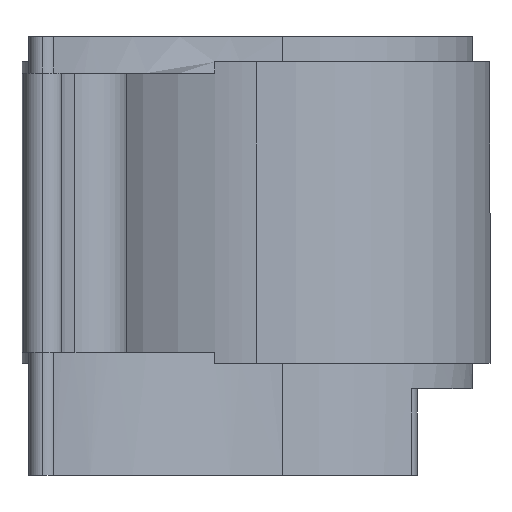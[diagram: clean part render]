
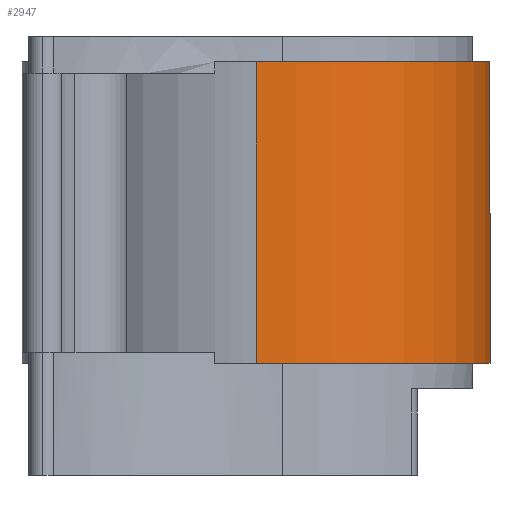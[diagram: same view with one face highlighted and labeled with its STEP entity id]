
A CAD part, left-side view. The second image highlights one B-rep face of the part: STEP entity #2947.
In plain terms, the highlighted cylindrical face has radius 67.5 mm (diameter 135 mm), a partial arc.
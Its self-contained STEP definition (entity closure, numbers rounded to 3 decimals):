
#4 = EDGE_CURVE ( 'NONE', #418, #681, #120, .T. ) ;
#25 = EDGE_CURVE ( 'NONE', #3398, #2139, #2890, .T. ) ;
#49 = VECTOR ( 'NONE', #2044, 1000. ) ;
#53 = DIRECTION ( 'NONE',  ( 0., 0., 1. ) ) ;
#81 = CARTESIAN_POINT ( 'NONE',  ( 67.5, -25.5, 43.5 ) ) ;
#120 = LINE ( 'NONE', #947, #2081 ) ;
#205 = CIRCLE ( 'NONE', #3006, 67.5 ) ;
#397 = AXIS2_PLACEMENT_3D ( 'NONE', #1897, #2411, #2907 ) ;
#418 = VERTEX_POINT ( 'NONE', #1340 ) ;
#491 = CARTESIAN_POINT ( 'NONE',  ( 0., -25.5, 43.5 ) ) ;
#647 = CYLINDRICAL_SURFACE ( 'NONE', #397, 67.5 ) ;
#662 = CIRCLE ( 'NONE', #1531, 67.5 ) ;
#681 = VERTEX_POINT ( 'NONE', #2047 ) ;
#701 = DIRECTION ( 'NONE',  ( 0., 0., -1. ) ) ;
#759 = ORIENTED_EDGE ( 'NONE', *, *, #958, .F. ) ;
#947 = CARTESIAN_POINT ( 'NONE',  ( 108.394, -79.202, 50.8 ) ) ;
#958 = EDGE_CURVE ( 'NONE', #3398, #418, #662, .T. ) ;
#993 = DIRECTION ( 'NONE',  ( 0., 0., 1. ) ) ;
#1099 = ORIENTED_EDGE ( 'NONE', *, *, #25, .T. ) ;
#1208 = EDGE_CURVE ( 'NONE', #2139, #681, #205, .T. ) ;
#1340 = CARTESIAN_POINT ( 'NONE',  ( 108.394, -79.202, 43.5 ) ) ;
#1531 = AXIS2_PLACEMENT_3D ( 'NONE', #81, #53, #3228 ) ;
#1696 = EDGE_LOOP ( 'NONE', ( #759, #1099, #2456, #2202 ) ) ;
#1861 = FACE_OUTER_BOUND ( 'NONE', #1696, .T. ) ;
#1897 = CARTESIAN_POINT ( 'NONE',  ( 67.5, -25.5, 50.8 ) ) ;
#2034 = DIRECTION ( 'NONE',  ( 1., 0., 0. ) ) ;
#2044 = DIRECTION ( 'NONE',  ( 0., 0., -1. ) ) ;
#2047 = CARTESIAN_POINT ( 'NONE',  ( 108.394, -79.202, -43.5 ) ) ;
#2081 = VECTOR ( 'NONE', #701, 1000. ) ;
#2139 = VERTEX_POINT ( 'NONE', #2200 ) ;
#2200 = CARTESIAN_POINT ( 'NONE',  ( 0., -25.5, -43.5 ) ) ;
#2202 = ORIENTED_EDGE ( 'NONE', *, *, #4, .F. ) ;
#2284 = CARTESIAN_POINT ( 'NONE',  ( 0., -25.5, 50.8 ) ) ;
#2411 = DIRECTION ( 'NONE',  ( 0., 0., -1. ) ) ;
#2456 = ORIENTED_EDGE ( 'NONE', *, *, #1208, .T. ) ;
#2588 = CARTESIAN_POINT ( 'NONE',  ( 67.5, -25.5, -43.5 ) ) ;
#2890 = LINE ( 'NONE', #2284, #49 ) ;
#2907 = DIRECTION ( 'NONE',  ( -1., 0., 0. ) ) ;
#2947 = ADVANCED_FACE ( 'NONE', ( #1861 ), #647, .T. ) ;
#3006 = AXIS2_PLACEMENT_3D ( 'NONE', #2588, #993, #2034 ) ;
#3228 = DIRECTION ( 'NONE',  ( 1., 0., 0. ) ) ;
#3398 = VERTEX_POINT ( 'NONE', #491 ) ;
